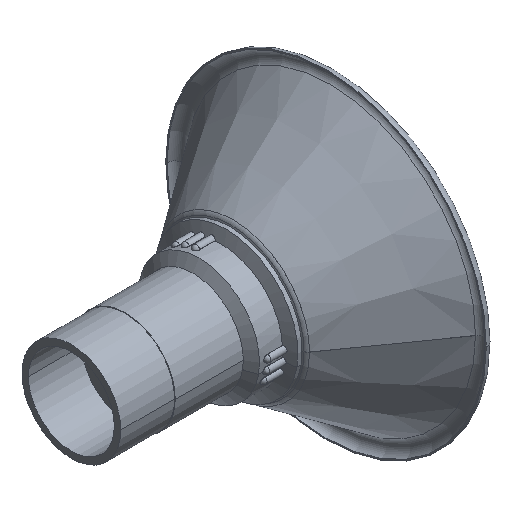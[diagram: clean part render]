
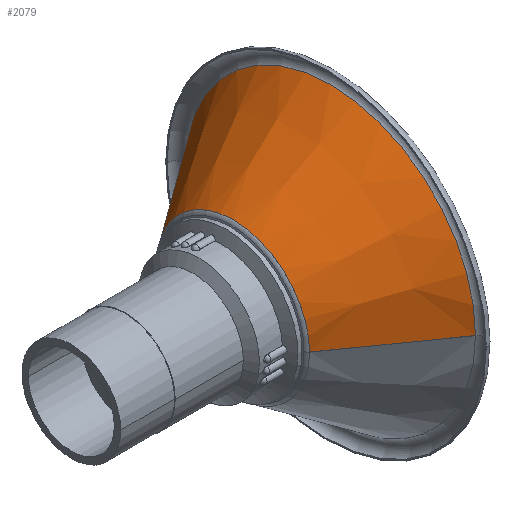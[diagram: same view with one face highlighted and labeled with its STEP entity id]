
A CAD part, isometric view. The second image highlights one B-rep face of the part: STEP entity #2079.
In plain terms, the highlighted conical face has half-angle 35.216 degrees and reference radius 86.331 mm.
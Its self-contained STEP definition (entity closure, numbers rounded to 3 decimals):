
#1733=CARTESIAN_POINT('',(0.,-4.614,0.));
#1734=DIRECTION('',(0.,1.,0.));
#1735=DIRECTION('',(-1.,0.,0.));
#1736=AXIS2_PLACEMENT_3D('',#1733,#1734,#1735);
#1741=DIRECTION('',(-0.577,-0.817,0.));
#1742=VECTOR('',#1741,92.836);
#1743=CARTESIAN_POINT('',(-59.563,-4.614,0.));
#1744=LINE('',#1743,#1742);
#1748=DIRECTION('',(0.577,-0.817,0.));
#1749=VECTOR('',#1748,92.836);
#1750=CARTESIAN_POINT('',(59.563,-4.614,0.));
#1751=LINE('',#1750,#1749);
#1787=CARTESIAN_POINT('',(0.,-80.46,0.));
#1788=DIRECTION('',(0.,1.,0.));
#1789=DIRECTION('',(-1.,0.,0.));
#1790=AXIS2_PLACEMENT_3D('',#1787,#1788,#1789);
#1967=CARTESIAN_POINT('',(-59.563,-4.614,0.));
#1968=CARTESIAN_POINT('',(-113.098,-80.46,
0.));
#1969=VERTEX_POINT('',#1967);
#1970=VERTEX_POINT('',#1968);
#1979=CARTESIAN_POINT('',(59.563,-4.614,0.));
#1980=CARTESIAN_POINT('',(113.098,-80.46,
0.));
#1981=VERTEX_POINT('',#1979);
#1982=VERTEX_POINT('',#1980);
#2065=CARTESIAN_POINT('',(0.,-42.537,0.));
#2066=DIRECTION('',(0.,-1.,0.));
#2067=DIRECTION('',(-1.,0.,0.));
#2068=AXIS2_PLACEMENT_3D('',#2065,#2066,#2067);
#2069=CONICAL_SURFACE('',#2068,86.331,35.216);
#2071=ORIENTED_EDGE('',*,*,#2070,.F.);
#2072=ORIENTED_EDGE('',*,*,#2060,.T.);
#2074=ORIENTED_EDGE('',*,*,#2073,.T.);
#2076=ORIENTED_EDGE('',*,*,#2075,.F.);
#2077=EDGE_LOOP('',(#2071,#2072,#2074,#2076));
#2078=FACE_OUTER_BOUND('',#2077,.F.);
#1737=CIRCLE('',#1736,59.563);
#1791=CIRCLE('',#1790,113.098);
#2060=EDGE_CURVE('',#1969,#1981,#1737,.T.);
#2070=EDGE_CURVE('',#1969,#1970,#1744,.T.);
#2073=EDGE_CURVE('',#1981,#1982,#1751,.T.);
#2075=EDGE_CURVE('',#1970,#1982,#1791,.T.);
#2079=ADVANCED_FACE('',(#2078),#2069,.T.);
